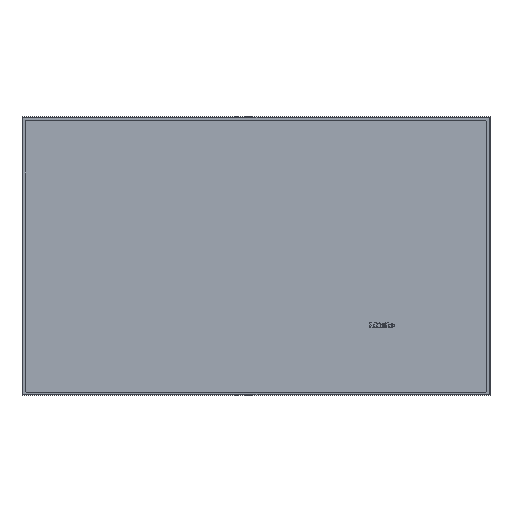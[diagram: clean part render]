
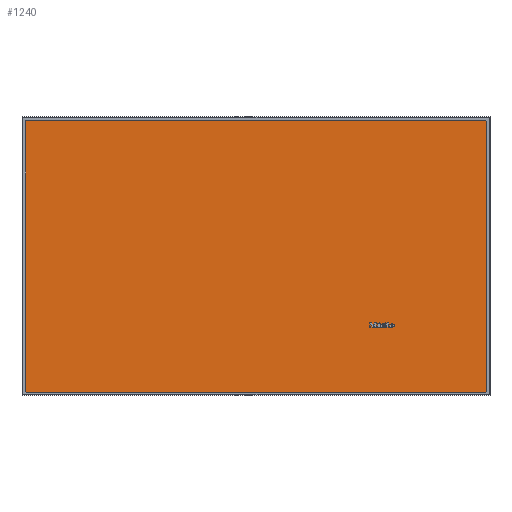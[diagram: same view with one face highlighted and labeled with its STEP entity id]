
A CAD part, top view. The second image highlights one B-rep face of the part: STEP entity #1240.
In plain terms, the highlighted free-form (B-spline) face has degree [1, 1] with [2, 2] control points.
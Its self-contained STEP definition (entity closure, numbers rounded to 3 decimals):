
#100 = CARTESIAN_POINT ('', (2.006, -2., 6.586));
#110 = VERTEX_POINT ('', #100);
#170 = CARTESIAN_POINT ('', (2.006, -542., 6.586));
#180 = VERTEX_POINT ('', #170);
#190 = CARTESIAN_POINT ('', (2.006, -2., 6.586));
#200 = CARTESIAN_POINT ('', (2.006, -542., 6.586));
#210 = B_SPLINE_CURVE_WITH_KNOTS ('', 1, (#190, #200), .UNSPECIFIED., .F., .U., (2, 2), (0., 1.), .UNSPECIFIED.);
#220 = EDGE_CURVE ('', #110, #180, #210, .T.);
#450 = CARTESIAN_POINT ('', (912.006, -542., 6.586));
#460 = VERTEX_POINT ('', #450);
#470 = CARTESIAN_POINT ('', (2.006, -542., 6.586));
#480 = CARTESIAN_POINT ('', (912.006, -542., 6.586));
#490 = B_SPLINE_CURVE_WITH_KNOTS ('', 1, (#470, #480), .UNSPECIFIED., .F., .U., (2, 2), (0., 1.), .UNSPECIFIED.);
#500 = EDGE_CURVE ('', #180, #460, #490, .T.);
#730 = CARTESIAN_POINT ('', (912.006, -2., 6.586));
#740 = VERTEX_POINT ('', #730);
#750 = CARTESIAN_POINT ('', (912.006, -542., 6.586));
#760 = CARTESIAN_POINT ('', (912.006, -2., 6.586));
#770 = B_SPLINE_CURVE_WITH_KNOTS ('', 1, (#750, #760), .UNSPECIFIED., .F., .U., (2, 2), (0., 1.), .UNSPECIFIED.);
#780 = EDGE_CURVE ('', #460, #740, #770, .T.);
#990 = CARTESIAN_POINT ('', (912.006, -2., 6.586));
#1000 = CARTESIAN_POINT ('', (2.006, -2., 6.586));
#1010 = B_SPLINE_CURVE_WITH_KNOTS ('', 1, (#990, #1000), .UNSPECIFIED., .F., .U., (2, 2), (0., 1.), .UNSPECIFIED.);
#1020 = EDGE_CURVE ('', #740, #110, #1010, .T.);
#1130 = ORIENTED_EDGE ('', *, *, #500, .T.);
#1140 = ORIENTED_EDGE ('', *, *, #780, .T.);
#1150 = ORIENTED_EDGE ('', *, *, #1020, .T.);
#1160 = ORIENTED_EDGE ('', *, *, #220, .T.);
#1170 = EDGE_LOOP ('', (#1130, #1140, #1150, #1160));
#1180 = FACE_OUTER_BOUND ('', #1170, .T.);
#1190 = CARTESIAN_POINT ('', (1568.073, -1383.067, 6.586));
#1200 = CARTESIAN_POINT ('', (-654.061, -1383.067, 6.586));
#1210 = CARTESIAN_POINT ('', (1568.073, 839.066, 6.586));
#1220 = CARTESIAN_POINT ('', (-654.061, 839.066, 6.586));
#1230 = B_SPLINE_SURFACE_WITH_KNOTS ('', 1, 1, ((#1190, #1200), (#1210, #1220)), .UNSPECIFIED., .F., .F., .U., (2, 2), (2, 2), (0., 1.), (0., 1.), .UNSPECIFIED.);
#1240 = ADVANCED_FACE ('', (#1180), #1230, .T.);
